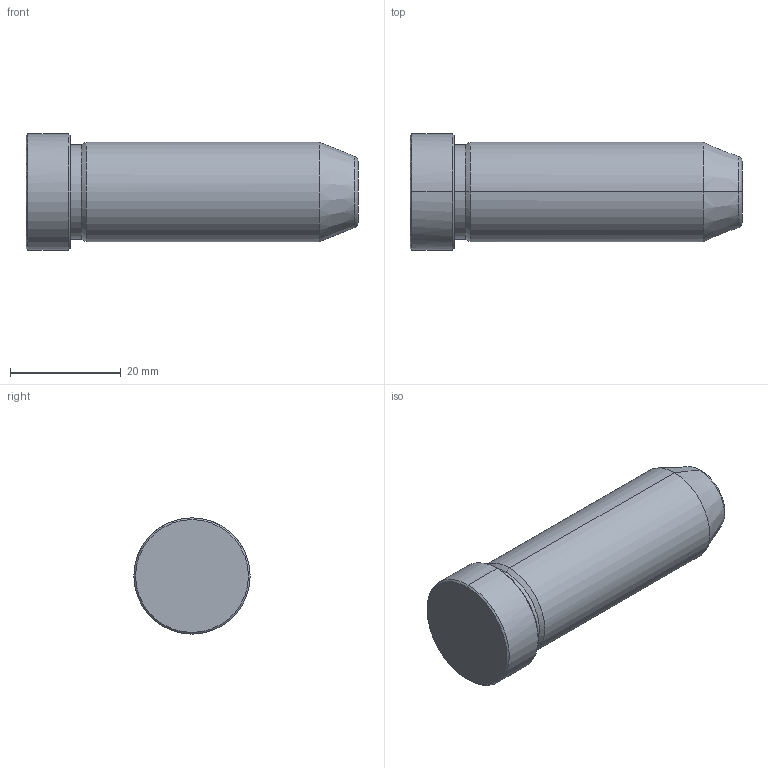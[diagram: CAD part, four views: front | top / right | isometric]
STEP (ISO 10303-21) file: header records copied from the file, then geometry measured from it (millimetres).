
FILE_DESCRIPTION(('CATIA V5 STEP Exchange'),'2;1');
FILE_NAME('C:\Users\Utente\Desktop\IO LAVORO\3D X SITO CF\X SITO\PLASTICA\549\549-18X60.stp','2021-12-11T09:44:35+00:00',('none'),('none'),'CATIA Version 5 Release 20 GA (IN-10)','CATIA V5 STEP AP203','none');
FILE_SCHEMA(('CONFIG_CONTROL_DESIGN'));
Length unit declared in the file: millimetre
Products named in the file (1): 549-18X60
Bounding box: 60 x 21 x 21 mm (x, y, z)
Volume: 15426.2 mm3; surface area: 3987.5 mm2
Topology: 1 solids, 1 shells, 19 faces, 56 edges, 40 vertices
Faces by surface type: cone 8, cylinder 6, plane 3, torus 2
Entity records: 736 total; most frequent: CARTESIAN_POINT 192, ORIENTED_EDGE 112, DIRECTION 86, EDGE_CURVE 56, AXIS2_PLACEMENT_3D 54, VERTEX_POINT 40, CIRCLE 34, EDGE_LOOP 20
